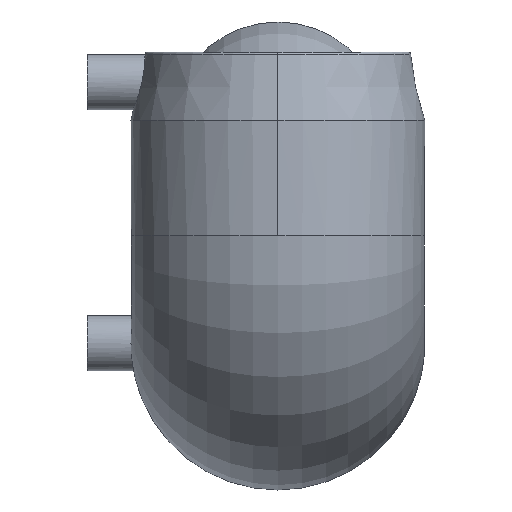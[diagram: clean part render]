
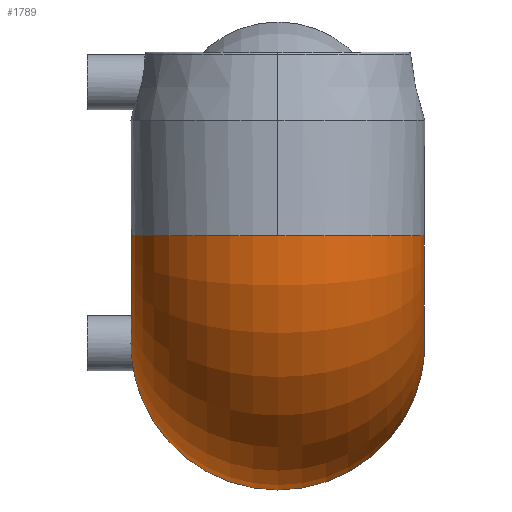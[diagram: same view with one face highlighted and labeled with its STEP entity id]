
A CAD part, left-side view. The second image highlights one B-rep face of the part: STEP entity #1789.
In plain terms, the highlighted toroidal (fillet/blend) face has major radius 41 mm and minor radius 56 mm.
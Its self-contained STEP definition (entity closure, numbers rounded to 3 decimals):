
#28 = B_SPLINE_CURVE_WITH_KNOTS ( 'NONE', 3,
 ( #1673, #592, #1990, #1889, #1911, #1840, #426, #704, #299, #1567, #1964, #1898, #2122, #1922, #2256, #2067 ),
 .UNSPECIFIED., .F., .F.,
 ( 4, 2, 2, 2, 2, 2, 2, 4 ),
 ( 0., 0., 0.001, 0.001, 0.002, 0.002, 0.003, 0.003 ),
 .UNSPECIFIED. ) ;
#83 = CARTESIAN_POINT ( 'NONE',  ( 39.469, 40.093, -71.16 ) ) ;
#93 = VERTEX_POINT ( 'NONE', #746 ) ;
#100 = EDGE_LOOP ( 'NONE', ( #954, #1168, #836, #165, #2084, #414 ) ) ;
#165 = ORIENTED_EDGE ( 'NONE', *, *, #1578, .F. ) ;
#206 = CARTESIAN_POINT ( 'NONE',  ( 41., 40.269, -72.085 ) ) ;
#259 = CIRCLE ( 'NONE', #788, 56. ) ;
#299 = CARTESIAN_POINT ( 'NONE',  ( 39.748, -40.093, -71.439 ) ) ;
#307 = CARTESIAN_POINT ( 'NONE',  ( 39.841, 40.093, -71.533 ) ) ;
#376 = CARTESIAN_POINT ( 'NONE',  ( 41., 40.269, -72.085 ) ) ;
#378 = CIRCLE ( 'NONE', #888, 56. ) ;
#401 = AXIS2_PLACEMENT_3D ( 'NONE', #2159, #2037, #2353 ) ;
#414 = ORIENTED_EDGE ( 'NONE', *, *, #2239, .F. ) ;
#419 = AXIS2_PLACEMENT_3D ( 'NONE', #966, #838, #817 ) ;
#426 = CARTESIAN_POINT ( 'NONE',  ( 40.056, -40.112, -71.681 ) ) ;
#431 = CIRCLE ( 'NONE', #1934, 56. ) ;
#455 = CARTESIAN_POINT ( 'NONE',  ( 41., 0., -111. ) ) ;
#474 = CARTESIAN_POINT ( 'NONE',  ( 39.311, 40.109, -70.947 ) ) ;
#487 = CARTESIAN_POINT ( 'NONE',  ( 39.064, 40.169, -70.495 ) ) ;
#504 = CARTESIAN_POINT ( 'NONE',  ( 38.973, 40.213, -70.25 ) ) ;
#511 = CARTESIAN_POINT ( 'NONE',  ( 40.507, 40.169, -71.936 ) ) ;
#588 = CARTESIAN_POINT ( 'NONE',  ( 41., 0., -167. ) ) ;
#592 = CARTESIAN_POINT ( 'NONE',  ( 40.876, -40.242, -72.056 ) ) ;
#678 = TOROIDAL_SURFACE ( 'NONE', #401, 41., 56. ) ;
#704 = CARTESIAN_POINT ( 'NONE',  ( 39.847, -40.097, -71.525 ) ) ;
#716 = VERTEX_POINT ( 'NONE', #1086 ) ;
#734 = DIRECTION ( 'NONE',  ( 1., 0., 0. ) ) ;
#746 = CARTESIAN_POINT ( 'NONE',  ( 41., -40.269, -72.085 ) ) ;
#774 = VERTEX_POINT ( 'NONE', #588 ) ;
#786 = DIRECTION ( 'NONE',  ( 0., 0., 1. ) ) ;
#788 = AXIS2_PLACEMENT_3D ( 'NONE', #810, #786, #734 ) ;
#810 = CARTESIAN_POINT ( 'NONE',  ( 0., 0., -70. ) ) ;
#817 = DIRECTION ( 'NONE',  ( 1., 0., 0. ) ) ;
#836 = ORIENTED_EDGE ( 'NONE', *, *, #968, .F. ) ;
#838 = DIRECTION ( 'NONE',  ( 0., 0., 1. ) ) ;
#848 = CARTESIAN_POINT ( 'NONE',  ( 40.049, 40.109, -71.687 ) ) ;
#864 = CIRCLE ( 'NONE', #419, 56. ) ;
#888 = AXIS2_PLACEMENT_3D ( 'NONE', #455, #1250, #1363 ) ;
#954 = ORIENTED_EDGE ( 'NONE', *, *, #1090, .F. ) ;
#966 = CARTESIAN_POINT ( 'NONE',  ( 0., 0., -70. ) ) ;
#968 = EDGE_CURVE ( 'NONE', #1816, #1960, #864, .T. ) ;
#987 = VERTEX_POINT ( 'NONE', #206 ) ;
#1086 = CARTESIAN_POINT ( 'NONE',  ( 38.915, 40.269, -70. ) ) ;
#1088 = CARTESIAN_POINT ( 'NONE',  ( 41., 0., -111. ) ) ;
#1090 = EDGE_CURVE ( 'NONE', #93, #774, #378, .T. ) ;
#1168 = ORIENTED_EDGE ( 'NONE', *, *, #1314, .T. ) ;
#1250 = DIRECTION ( 'NONE',  ( 1., 0., 0. ) ) ;
#1271 = EDGE_CURVE ( 'NONE', #716, #987, #1516, .T. ) ;
#1314 = EDGE_CURVE ( 'NONE', #93, #1960, #28, .T. ) ;
#1363 = DIRECTION ( 'NONE',  ( 0., 0., -1. ) ) ;
#1516 = B_SPLINE_CURVE_WITH_KNOTS ( 'NONE', 3,
 ( #1947, #504, #487, #474, #83, #307, #848, #511, #1643, #376 ),
 .UNSPECIFIED., .F., .F.,
 ( 4, 2, 2, 2, 4 ),
 ( 0., 0.001, 0.002, 0.002, 0.003 ),
 .UNSPECIFIED. ) ;
#1567 = CARTESIAN_POINT ( 'NONE',  ( 39.468, -40.093, -71.16 ) ) ;
#1578 = EDGE_CURVE ( 'NONE', #716, #1816, #259, .T. ) ;
#1613 = FACE_OUTER_BOUND ( 'NONE', #100, .T. ) ;
#1643 = CARTESIAN_POINT ( 'NONE',  ( 40.75, 40.213, -72.027 ) ) ;
#1651 = DIRECTION ( 'NONE',  ( 0., 0., -1. ) ) ;
#1673 = CARTESIAN_POINT ( 'NONE',  ( 41., -40.269, -72.085 ) ) ;
#1789 = ADVANCED_FACE ( 'NONE', ( #1613 ), #678, .T. ) ;
#1816 = VERTEX_POINT ( 'NONE', #2184 ) ;
#1818 = CARTESIAN_POINT ( 'NONE',  ( 38.915, -40.269, -70. ) ) ;
#1830 = DIRECTION ( 'NONE',  ( 1., 0., 0. ) ) ;
#1840 = CARTESIAN_POINT ( 'NONE',  ( 40.168, -40.124, -71.752 ) ) ;
#1889 = CARTESIAN_POINT ( 'NONE',  ( 40.512, -40.173, -71.929 ) ) ;
#1898 = CARTESIAN_POINT ( 'NONE',  ( 39.126, -40.154, -70.608 ) ) ;
#1911 = CARTESIAN_POINT ( 'NONE',  ( 40.396, -40.154, -71.876 ) ) ;
#1922 = CARTESIAN_POINT ( 'NONE',  ( 38.981, -40.216, -70.248 ) ) ;
#1934 = AXIS2_PLACEMENT_3D ( 'NONE', #1088, #1830, #1651 ) ;
#1947 = CARTESIAN_POINT ( 'NONE',  ( 38.915, 40.269, -70. ) ) ;
#1960 = VERTEX_POINT ( 'NONE', #1818 ) ;
#1964 = CARTESIAN_POINT ( 'NONE',  ( 39.313, -40.108, -70.951 ) ) ;
#1990 = CARTESIAN_POINT ( 'NONE',  ( 40.752, -40.216, -72.019 ) ) ;
#2037 = DIRECTION ( 'NONE',  ( 0., 1., 0. ) ) ;
#2067 = CARTESIAN_POINT ( 'NONE',  ( 38.915, -40.269, -70. ) ) ;
#2084 = ORIENTED_EDGE ( 'NONE', *, *, #1271, .T. ) ;
#2122 = CARTESIAN_POINT ( 'NONE',  ( 39.072, -40.173, -70.489 ) ) ;
#2159 = CARTESIAN_POINT ( 'NONE',  ( 41., 0., -70. ) ) ;
#2184 = CARTESIAN_POINT ( 'NONE',  ( -56., 0., -70. ) ) ;
#2239 = EDGE_CURVE ( 'NONE', #774, #987, #431, .T. ) ;
#2256 = CARTESIAN_POINT ( 'NONE',  ( 38.944, -40.242, -70.124 ) ) ;
#2353 = DIRECTION ( 'NONE',  ( 0., 0., 1. ) ) ;
